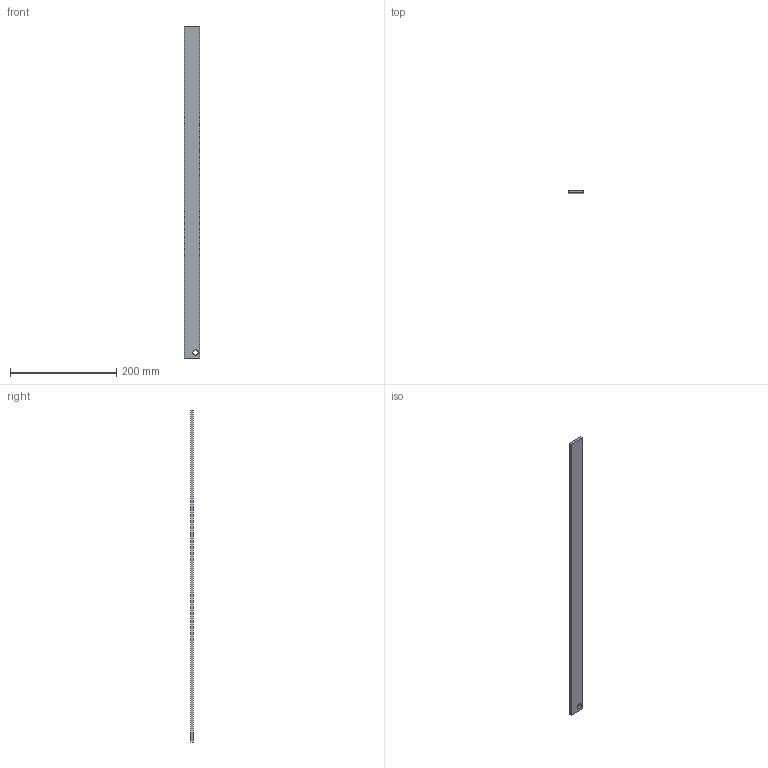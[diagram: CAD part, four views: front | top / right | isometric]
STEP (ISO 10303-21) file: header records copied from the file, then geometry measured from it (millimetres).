
FILE_DESCRIPTION(('FreeCAD Model'),'2;1');
FILE_NAME('Open CASCADE Shape Model','2026-10-06T09:33:39',('FreeCAD'),( 'FreeCAD'),'Open CASCADE STEP processor 7.8','FreeCAD','Unknown');
FILE_SCHEMA(('AUTOMOTIVE_DESIGN { 1 0 10303 214 1 1 1 1 }'));
Length unit declared in the file: millimetre
Products named in the file (1): Open CASCADE STEP translator 7.8 89
Bounding box: 29.9 x 4.76 x 626 mm (x, y, z)
Volume: 88733.5 mm3; surface area: 43668.6 mm2
Topology: 1 solids, 1 shells, 7 faces, 15 edges, 10 vertices
Faces by surface type: plane 6, cylinder 1
Full cylindrical faces by diameter (mm): 10.325 x1
Entity records: 205 total; most frequent: CARTESIAN_POINT 33, DIRECTION 33, ORIENTED_EDGE 30, EDGE_CURVE 15, LINE 13, VECTOR 13, AXIS2_PLACEMENT_3D 10, VERTEX_POINT 10
